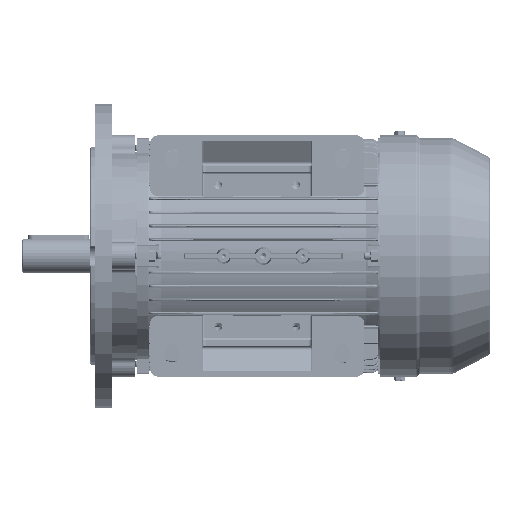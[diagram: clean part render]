
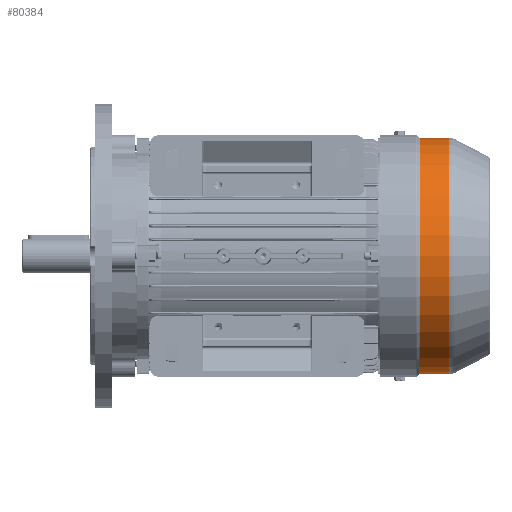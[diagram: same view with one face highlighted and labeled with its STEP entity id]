
A CAD part, front view. The second image highlights one B-rep face of the part: STEP entity #80384.
In plain terms, the highlighted cylindrical face has radius 97 mm (diameter 194 mm), a partial arc.
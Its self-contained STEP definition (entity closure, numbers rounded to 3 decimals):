
#1992 = LINE ( 'NONE', #119283, #76842 ) ;
#2124 = AXIS2_PLACEMENT_3D ( 'NONE', #18483, #79199, #152194 ) ;
#16592 = CARTESIAN_POINT ( 'NONE',  ( -56.547, 0., 0. ) ) ;
#18483 = CARTESIAN_POINT ( 'NONE',  ( -32.828, 0., 0. ) ) ;
#18790 = CYLINDRICAL_SURFACE ( 'NONE', #137858, 97. ) ;
#21915 = CARTESIAN_POINT ( 'NONE',  ( 0., 0., 0. ) ) ;
#24655 = CARTESIAN_POINT ( 'NONE',  ( -32.828, 0., -97. ) ) ;
#26421 = VERTEX_POINT ( 'NONE', #158396 ) ;
#42174 = ORIENTED_EDGE ( 'NONE', *, *, #42975, .T. ) ;
#42975 = EDGE_CURVE ( 'NONE', #45770, #26421, #106298, .T. ) ;
#44100 = ORIENTED_EDGE ( 'NONE', *, *, #108305, .T. ) ;
#45770 = VERTEX_POINT ( 'NONE', #58096 ) ;
#47128 = EDGE_CURVE ( 'NONE', #78545, #26421, #118861, .T. ) ;
#49598 = FACE_OUTER_BOUND ( 'NONE', #57509, .T. ) ;
#53636 = VECTOR ( 'NONE', #152205, 1000. ) ;
#57509 = EDGE_LOOP ( 'NONE', ( #98141, #143838, #44100, #42174 ) ) ;
#58096 = CARTESIAN_POINT ( 'NONE',  ( -56.547, 0., 97. ) ) ;
#58982 = DIRECTION ( 'NONE',  ( -1., 0., 0. ) ) ;
#60296 = DIRECTION ( 'NONE',  ( -1., 0., 0. ) ) ;
#61190 = VERTEX_POINT ( 'NONE', #74115 ) ;
#74115 = CARTESIAN_POINT ( 'NONE',  ( -32.828, 0., 97. ) ) ;
#76842 = VECTOR ( 'NONE', #60296, 1000. ) ;
#78545 = VERTEX_POINT ( 'NONE', #24655 ) ;
#79199 = DIRECTION ( 'NONE',  ( -1., 0., 0. ) ) ;
#80384 = ADVANCED_FACE ( 'NONE', ( #49598 ), #18790, .T. ) ;
#92276 = DIRECTION ( 'NONE',  ( 0., 0., -1. ) ) ;
#98141 = ORIENTED_EDGE ( 'NONE', *, *, #47128, .F. ) ;
#102467 = DIRECTION ( 'NONE',  ( 1., 0., 0. ) ) ;
#106298 = CIRCLE ( 'NONE', #124178, 97. ) ;
#108305 = EDGE_CURVE ( 'NONE', #61190, #45770, #1992, .T. ) ;
#118861 = LINE ( 'NONE', #152729, #53636 ) ;
#119283 = CARTESIAN_POINT ( 'NONE',  ( 0., 0., 97. ) ) ;
#119423 = EDGE_CURVE ( 'NONE', #78545, #61190, #133210, .T. ) ;
#124178 = AXIS2_PLACEMENT_3D ( 'NONE', #16592, #102467, #92276 ) ;
#131913 = DIRECTION ( 'NONE',  ( 0., 0., 1. ) ) ;
#133210 = CIRCLE ( 'NONE', #2124, 97. ) ;
#137858 = AXIS2_PLACEMENT_3D ( 'NONE', #21915, #58982, #131913 ) ;
#143838 = ORIENTED_EDGE ( 'NONE', *, *, #119423, .T. ) ;
#152194 = DIRECTION ( 'NONE',  ( 0., 0., 1. ) ) ;
#152205 = DIRECTION ( 'NONE',  ( -1., 0., 0. ) ) ;
#152729 = CARTESIAN_POINT ( 'NONE',  ( 0., 0., -97. ) ) ;
#158396 = CARTESIAN_POINT ( 'NONE',  ( -56.547, 0., -97. ) ) ;
